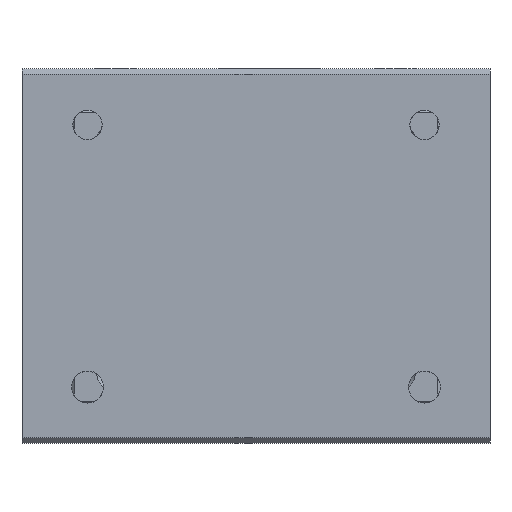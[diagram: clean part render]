
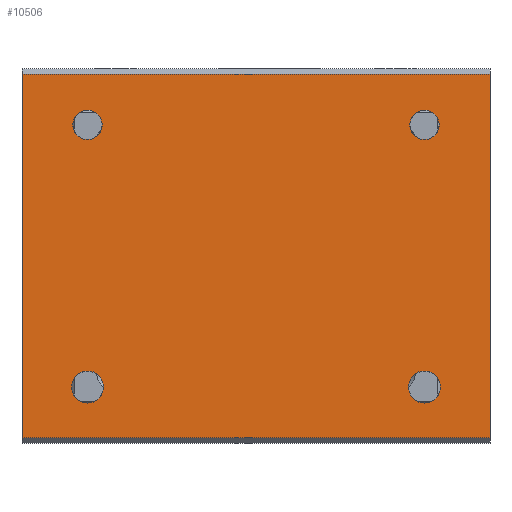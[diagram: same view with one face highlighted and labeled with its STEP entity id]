
A CAD part, front view. The second image highlights one B-rep face of the part: STEP entity #10506.
In plain terms, the highlighted planar face has unit normal (0, -1, 0).
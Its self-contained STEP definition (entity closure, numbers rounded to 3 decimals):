
#377=CIRCLE('',#11128,0.857);
#378=CIRCLE('',#11133,0.857);
#384=CIRCLE('',#11145,0.784);
#385=CIRCLE('',#11148,0.784);
#1503=ORIENTED_EDGE('',*,*,#4318,.F.);
#1504=ORIENTED_EDGE('',*,*,#4316,.F.);
#1505=ORIENTED_EDGE('',*,*,#4301,.F.);
#1506=ORIENTED_EDGE('',*,*,#4297,.F.);
#1507=ORIENTED_EDGE('',*,*,#4274,.T.);
#1508=ORIENTED_EDGE('',*,*,#4709,.F.);
#1509=ORIENTED_EDGE('',*,*,#4257,.F.);
#1510=ORIENTED_EDGE('',*,*,#4708,.T.);
#4257=EDGE_CURVE('',#5870,#5871,#6959,.T.);
#4274=EDGE_CURVE('',#5888,#5887,#6976,.T.);
#4297=EDGE_CURVE('',#5906,#5906,#377,.T.);
#4301=EDGE_CURVE('',#5909,#5909,#378,.T.);
#4316=EDGE_CURVE('',#5919,#5919,#384,.T.);
#4318=EDGE_CURVE('',#5920,#5920,#385,.T.);
#4708=EDGE_CURVE('',#5870,#5888,#7140,.T.);
#4709=EDGE_CURVE('',#5871,#5887,#7141,.T.);
#5870=VERTEX_POINT('',#15851);
#5871=VERTEX_POINT('',#15853);
#5887=VERTEX_POINT('',#15886);
#5888=VERTEX_POINT('',#15888);
#5906=VERTEX_POINT('',#15932);
#5909=VERTEX_POINT('',#15940);
#5919=VERTEX_POINT('',#15968);
#5920=VERTEX_POINT('',#15972);
#6959=LINE('',#15852,#7924);
#6976=LINE('',#15887,#7941);
#7140=LINE('',#16750,#8105);
#7141=LINE('',#16752,#8106);
#7924=VECTOR('',#12384,1000.);
#7941=VECTOR('',#12403,1000.);
#8105=VECTOR('',#13129,1000.);
#8106=VECTOR('',#13132,1000.);
#8917=EDGE_LOOP('',(#1503));
#8918=EDGE_LOOP('',(#1504));
#8919=EDGE_LOOP('',(#1505));
#8920=EDGE_LOOP('',(#1506));
#8921=EDGE_LOOP('',(#1507,#1508,#1509,#1510));
#9595=FACE_BOUND('',#8917,.T.);
#9596=FACE_BOUND('',#8918,.T.);
#9597=FACE_BOUND('',#8919,.T.);
#9598=FACE_BOUND('',#8920,.T.);
#9599=FACE_BOUND('',#8921,.T.);
#10238=PLANE('',#11404);
#10506=ADVANCED_FACE('',(#9595,#9596,#9597,#9598,#9599),#10238,.F.);
#11128=AXIS2_PLACEMENT_3D('',#15931,#12434,#12435);
#11133=AXIS2_PLACEMENT_3D('',#15939,#12444,#12445);
#11145=AXIS2_PLACEMENT_3D('',#15967,#12474,#12475);
#11148=AXIS2_PLACEMENT_3D('',#15971,#12480,#12481);
#11404=AXIS2_PLACEMENT_3D('',#16751,#13130,#13131);
#12384=DIRECTION('',(0.,0.,-1.));
#12403=DIRECTION('',(0.,0.,-1.));
#12434=DIRECTION('',(0.,-1.,0.));
#12435=DIRECTION('',(0.,0.,-1.));
#12444=DIRECTION('',(0.,-1.,0.));
#12445=DIRECTION('',(0.,0.,-1.));
#12474=DIRECTION('',(0.,-1.,0.));
#12475=DIRECTION('',(0.,0.,-1.));
#12480=DIRECTION('',(0.,-1.,0.));
#12481=DIRECTION('',(0.,0.,-1.));
#13129=DIRECTION('',(-1.,0.,0.));
#13130=DIRECTION('',(0.,1.,0.));
#13131=DIRECTION('',(0.,0.,1.));
#13132=DIRECTION('',(-1.,0.,0.));
#15851=CARTESIAN_POINT('',(25.,0.,9.7));
#15852=CARTESIAN_POINT('',(25.,0.,9.7));
#15853=CARTESIAN_POINT('',(25.,0.,-9.7));
#15886=CARTESIAN_POINT('',(0.,0.,-9.7));
#15887=CARTESIAN_POINT('',(0.,0.,9.7));
#15888=CARTESIAN_POINT('',(0.,0.,9.7));
#15931=CARTESIAN_POINT('',(3.5,0.,-7.));
#15932=CARTESIAN_POINT('',(3.5,0.,-7.857));
#15939=CARTESIAN_POINT('',(21.5,0.,-7.));
#15940=CARTESIAN_POINT('',(21.5,0.,-7.857));
#15967=CARTESIAN_POINT('',(3.5,0.,7.));
#15968=CARTESIAN_POINT('',(3.5,0.,6.217));
#15971=CARTESIAN_POINT('',(21.5,0.,7.));
#15972=CARTESIAN_POINT('',(21.5,0.,6.217));
#16750=CARTESIAN_POINT('',(25.,0.,9.7));
#16751=CARTESIAN_POINT('',(25.,0.,9.7));
#16752=CARTESIAN_POINT('',(25.,0.,-9.7));
